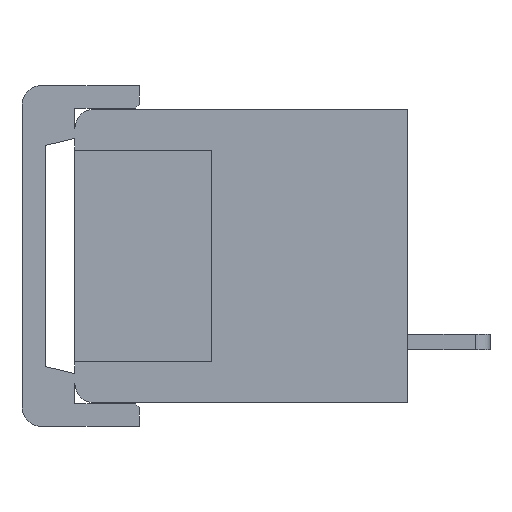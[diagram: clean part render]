
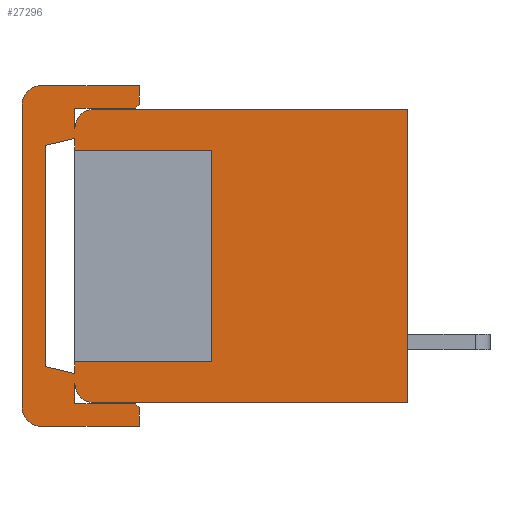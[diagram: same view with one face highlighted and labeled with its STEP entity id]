
A CAD part, left-side view. The second image highlights one B-rep face of the part: STEP entity #27296.
In plain terms, the highlighted planar face has unit normal (-1, 0, 0).
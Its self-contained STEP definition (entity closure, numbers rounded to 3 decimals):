
#77=DIRECTION('',(0.,1.,0.));
#78=VECTOR('',#77,3.1);
#79=CARTESIAN_POINT('',(9.5,13.9,0.05));
#80=LINE('',#79,#78);
#173=DIRECTION('',(0.,0.,-1.));
#174=VECTOR('',#173,0.95);
#175=CARTESIAN_POINT('',(9.5,13.7,1.2));
#176=LINE('',#175,#174);
#189=DIRECTION('',(0.,-1.,0.));
#190=VECTOR('',#189,5.);
#191=CARTESIAN_POINT('',(9.5,18.7,1.2));
#192=LINE('',#191,#190);
#205=DIRECTION('',(0.,0.,1.));
#206=VECTOR('',#205,15.4);
#207=CARTESIAN_POINT('',(9.5,19.7,-15.2));
#208=LINE('',#207,#206);
#221=DIRECTION('',(0.,1.,0.));
#222=VECTOR('',#221,5.);
#223=CARTESIAN_POINT('',(9.5,13.7,-16.2));
#224=LINE('',#223,#222);
#233=DIRECTION('',(0.,0.,-1.));
#234=VECTOR('',#233,0.95);
#235=CARTESIAN_POINT('',(9.5,13.7,-15.25));
#236=LINE('',#235,#234);
#289=DIRECTION('',(0.,-1.,0.));
#290=VECTOR('',#289,3.1);
#291=CARTESIAN_POINT('',(9.5,17.,-15.05));
#292=LINE('',#291,#290);
#361=DIRECTION('',(0.,1.,0.));
#362=VECTOR('',#361,16.);
#363=CARTESIAN_POINT('',(9.5,0.,-15.));
#364=LINE('',#363,#362);
#411=DIRECTION('',(0.,0.,-1.));
#412=VECTOR('',#411,15.);
#413=CARTESIAN_POINT('',(9.5,0.,0.));
#414=LINE('',#413,#412);
#622=DIRECTION('',(0.,0.,-1.));
#623=VECTOR('',#622,1.05);
#624=CARTESIAN_POINT('',(9.5,17.,0.05));
#625=LINE('',#624,#623);
#749=DIRECTION('',(0.,0.,-1.));
#750=VECTOR('',#749,1.05);
#751=CARTESIAN_POINT('',(9.5,17.,-14.));
#752=LINE('',#751,#750);
#933=DIRECTION('',(0.,0.,1.));
#934=VECTOR('',#933,0.6);
#935=CARTESIAN_POINT('',(9.5,17.,-2.1));
#936=LINE('',#935,#934);
#937=DIRECTION('',(0.,0.,1.));
#938=VECTOR('',#937,0.6);
#939=CARTESIAN_POINT('',(9.5,17.,-13.5));
#940=LINE('',#939,#938);
#953=CARTESIAN_POINT('',(9.5,16.,-14.));
#954=DIRECTION('',(-1.,0.,0.));
#955=DIRECTION('',(0.,1.,0.));
#956=AXIS2_PLACEMENT_3D('',#953,#954,#955);
#958=DIRECTION('',(0.,0.707,0.707));
#959=VECTOR('',#958,0.283);
#960=CARTESIAN_POINT('',(9.5,13.7,-15.25));
#961=LINE('',#960,#959);
#962=CARTESIAN_POINT('',(9.5,18.7,-15.2));
#963=DIRECTION('',(-1.,0.,0.));
#964=DIRECTION('',(0.,1.,0.));
#965=AXIS2_PLACEMENT_3D('',#962,#963,#964);
#967=CARTESIAN_POINT('',(9.5,18.7,0.2));
#968=DIRECTION('',(-1.,0.,0.));
#969=DIRECTION('',(0.,0.,1.));
#970=AXIS2_PLACEMENT_3D('',#967,#968,#969);
#972=DIRECTION('',(0.,-0.707,0.707));
#973=VECTOR('',#972,0.283);
#974=CARTESIAN_POINT('',(9.5,13.9,0.05));
#975=LINE('',#974,#973);
#976=CARTESIAN_POINT('',(9.5,16.,-1.));
#977=DIRECTION('',(-1.,0.,0.));
#978=DIRECTION('',(0.,0.,1.));
#979=AXIS2_PLACEMENT_3D('',#976,#977,#978);
#981=DIRECTION('',(0.,1.,0.));
#982=VECTOR('',#981,16.);
#983=CARTESIAN_POINT('',(9.5,0.,0.));
#984=LINE('',#983,#982);
#985=DIRECTION('',(0.,-0.974,0.227));
#986=VECTOR('',#985,1.54);
#987=CARTESIAN_POINT('',(9.5,18.5,-1.85));
#988=LINE('',#987,#986);
#989=DIRECTION('',(0.,0.974,0.227));
#990=VECTOR('',#989,1.54);
#991=CARTESIAN_POINT('',(9.5,17.,-13.5));
#992=LINE('',#991,#990);
#7906=DIRECTION('',(0.,0.,-1.));
#7907=VECTOR('',#7906,11.3);
#7908=CARTESIAN_POINT('',(9.5,18.5,-1.85));
#7909=LINE('',#7908,#7907);
#7922=DIRECTION('',(0.,-1.,0.));
#7923=VECTOR('',#7922,7.);
#7924=CARTESIAN_POINT('',(9.5,17.,-12.9));
#7925=LINE('',#7924,#7923);
#7954=DIRECTION('',(0.,1.,0.));
#7955=VECTOR('',#7954,7.);
#7956=CARTESIAN_POINT('',(9.5,10.,-2.1));
#7957=LINE('',#7956,#7955);
#7962=DIRECTION('',(0.,0.,1.));
#7963=VECTOR('',#7962,10.8);
#7964=CARTESIAN_POINT('',(9.5,10.,-12.9));
#7965=LINE('',#7964,#7963);
#21797=CARTESIAN_POINT('',(9.5,0.,0.));
#21798=VERTEX_POINT('',#21797);
#21799=CARTESIAN_POINT('',(9.5,16.,0.));
#21800=VERTEX_POINT('',#21799);
#21843=CARTESIAN_POINT('',(9.5,0.,-15.));
#21844=VERTEX_POINT('',#21843);
#21845=CARTESIAN_POINT('',(9.5,16.,-15.));
#21846=VERTEX_POINT('',#21845);
#21847=CARTESIAN_POINT('',(9.5,17.,-12.9));
#21848=CARTESIAN_POINT('',(9.5,10.,-12.9));
#21849=VERTEX_POINT('',#21847);
#21850=VERTEX_POINT('',#21848);
#21851=CARTESIAN_POINT('',(9.5,10.,-2.1));
#21852=VERTEX_POINT('',#21851);
#21853=CARTESIAN_POINT('',(9.5,17.,-2.1));
#21854=VERTEX_POINT('',#21853);
#22860=CARTESIAN_POINT('',(9.5,18.7,1.2));
#22861=CARTESIAN_POINT('',(9.5,19.7,0.2));
#22862=VERTEX_POINT('',#22860);
#22863=VERTEX_POINT('',#22861);
#22864=CARTESIAN_POINT('',(9.5,13.7,1.2));
#22865=VERTEX_POINT('',#22864);
#22866=CARTESIAN_POINT('',(9.5,13.7,0.25));
#22867=VERTEX_POINT('',#22866);
#22868=CARTESIAN_POINT('',(9.5,13.9,0.05));
#22869=VERTEX_POINT('',#22868);
#22870=CARTESIAN_POINT('',(9.5,17.,0.05));
#22871=VERTEX_POINT('',#22870);
#22872=CARTESIAN_POINT('',(9.5,18.5,-1.85));
#22873=CARTESIAN_POINT('',(9.5,18.5,-13.15));
#22874=VERTEX_POINT('',#22872);
#22875=VERTEX_POINT('',#22873);
#22876=CARTESIAN_POINT('',(9.5,17.,-15.05));
#22877=CARTESIAN_POINT('',(9.5,13.9,-15.05));
#22878=VERTEX_POINT('',#22876);
#22879=VERTEX_POINT('',#22877);
#22880=CARTESIAN_POINT('',(9.5,13.7,-15.25));
#22881=VERTEX_POINT('',#22880);
#22882=CARTESIAN_POINT('',(9.5,13.7,-16.2));
#22883=VERTEX_POINT('',#22882);
#22884=CARTESIAN_POINT('',(9.5,18.7,-16.2));
#22885=VERTEX_POINT('',#22884);
#22886=CARTESIAN_POINT('',(9.5,19.7,-15.2));
#22887=VERTEX_POINT('',#22886);
#25207=CARTESIAN_POINT('',(9.5,17.,-1.));
#25208=VERTEX_POINT('',#25207);
#25221=CARTESIAN_POINT('',(9.5,17.,-14.));
#25222=VERTEX_POINT('',#25221);
#25223=CARTESIAN_POINT('',(9.5,17.,-1.5));
#25224=VERTEX_POINT('',#25223);
#25225=CARTESIAN_POINT('',(9.5,17.,-13.5));
#25226=VERTEX_POINT('',#25225);
#27254=CARTESIAN_POINT('',(9.5,17.,0.));
#27255=DIRECTION('',(-1.,0.,0.));
#27256=DIRECTION('',(0.,-1.,0.));
#27257=AXIS2_PLACEMENT_3D('',#27254,#27255,#27256);
#27258=PLANE('',#27257);
#27260=ORIENTED_EDGE('',*,*,#27259,.F.);
#27261=ORIENTED_EDGE('',*,*,#26966,.T.);
#27262=ORIENTED_EDGE('',*,*,#26146,.T.);
#27263=ORIENTED_EDGE('',*,*,#26131,.F.);
#27264=ORIENTED_EDGE('',*,*,#26116,.T.);
#27265=ORIENTED_EDGE('',*,*,#26101,.T.);
#27266=ORIENTED_EDGE('',*,*,#26086,.F.);
#27267=ORIENTED_EDGE('',*,*,#26071,.T.);
#27268=ORIENTED_EDGE('',*,*,#26056,.F.);
#27269=ORIENTED_EDGE('',*,*,#26041,.T.);
#27270=ORIENTED_EDGE('',*,*,#26026,.T.);
#27271=ORIENTED_EDGE('',*,*,#26011,.F.);
#27272=ORIENTED_EDGE('',*,*,#25720,.T.);
#27273=ORIENTED_EDGE('',*,*,#26827,.T.);
#27275=ORIENTED_EDGE('',*,*,#27274,.F.);
#27276=ORIENTED_EDGE('',*,*,#25648,.F.);
#27277=ORIENTED_EDGE('',*,*,#26453,.T.);
#27278=ORIENTED_EDGE('',*,*,#26343,.T.);
#27279=EDGE_LOOP('',(#27260,#27261,#27262,#27263,#27264,#27265,#27266,#27267,
#27268,#27269,#27270,#27271,#27272,#27273,#27275,#27276,#27277,#27278));
#27280=FACE_OUTER_BOUND('',#27279,.F.);
#27281=ORIENTED_EDGE('',*,*,#27230,.T.);
#27282=ORIENTED_EDGE('',*,*,#26736,.F.);
#27284=ORIENTED_EDGE('',*,*,#27283,.T.);
#27286=ORIENTED_EDGE('',*,*,#27285,.F.);
#27287=ORIENTED_EDGE('',*,*,#27238,.T.);
#27289=ORIENTED_EDGE('',*,*,#27288,.T.);
#27291=ORIENTED_EDGE('',*,*,#27290,.T.);
#27293=ORIENTED_EDGE('',*,*,#27292,.T.);
#27294=EDGE_LOOP('',(#27281,#27282,#27284,#27286,#27287,#27289,#27291,#27293));
#27295=FACE_BOUND('',#27294,.F.);
#27296=ADVANCED_FACE('',(#27280,#27295),#27258,.T.);
#957=CIRCLE('',#956,1.);
#966=CIRCLE('',#965,1.);
#971=CIRCLE('',#970,1.);
#980=CIRCLE('',#979,1.);
#25648=EDGE_CURVE('',#21798,#21800,#984,.T.);
#25720=EDGE_CURVE('',#22869,#22871,#80,.T.);
#26011=EDGE_CURVE('',#22869,#22867,#975,.T.);
#26026=EDGE_CURVE('',#22865,#22867,#176,.T.);
#26041=EDGE_CURVE('',#22862,#22865,#192,.T.);
#26056=EDGE_CURVE('',#22862,#22863,#971,.T.);
#26071=EDGE_CURVE('',#22887,#22863,#208,.T.);
#26086=EDGE_CURVE('',#22887,#22885,#966,.T.);
#26101=EDGE_CURVE('',#22883,#22885,#224,.T.);
#26116=EDGE_CURVE('',#22881,#22883,#236,.T.);
#26131=EDGE_CURVE('',#22881,#22879,#961,.T.);
#26146=EDGE_CURVE('',#22878,#22879,#292,.T.);
#26343=EDGE_CURVE('',#21844,#21846,#364,.T.);
#26453=EDGE_CURVE('',#21798,#21844,#414,.T.);
#26736=EDGE_CURVE('',#22874,#25224,#988,.T.);
#26827=EDGE_CURVE('',#22871,#25208,#625,.T.);
#26966=EDGE_CURVE('',#25222,#22878,#752,.T.);
#27230=EDGE_CURVE('',#21854,#25224,#936,.T.);
#27238=EDGE_CURVE('',#25226,#21849,#940,.T.);
#27259=EDGE_CURVE('',#25222,#21846,#957,.T.);
#27274=EDGE_CURVE('',#21800,#25208,#980,.T.);
#27283=EDGE_CURVE('',#22874,#22875,#7909,.T.);
#27285=EDGE_CURVE('',#25226,#22875,#992,.T.);
#27288=EDGE_CURVE('',#21849,#21850,#7925,.T.);
#27290=EDGE_CURVE('',#21850,#21852,#7965,.T.);
#27292=EDGE_CURVE('',#21852,#21854,#7957,.T.);
